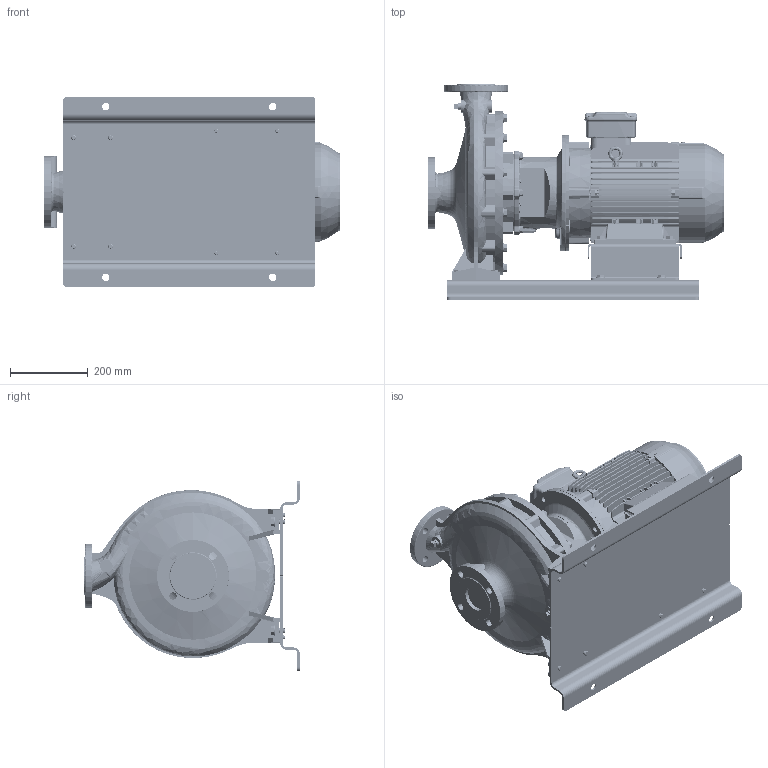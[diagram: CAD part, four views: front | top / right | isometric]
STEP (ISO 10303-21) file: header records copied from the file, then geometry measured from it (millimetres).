
FILE_DESCRIPTION (( 'STEP AP214' ), '1' );
FILE_NAME ('GSD4 50-315_7.5_(132M)_W21_BP.STEP', '2024-08-12T05:57:29', ( '' ), ( '' ), 'SwSTEP 2.0', 'SolidWorks 2019', '' );
FILE_SCHEMA (( 'AUTOMOTIVE_DESIGN' ));
Length unit declared in the file: millimetre
Products named in the file (10): GSD4 50-315_7.5_(132M)_W21_BP; Parametric bolt_SFT-A253B; Parametric Flat Washer_M10; 140_178 x 93 BP - CGSDA-5244; 132M ALIE3_W21T_B35; N5S5 GSDA-558 F1-1832921-00; 50-315-132M_______; Parametric bolt_SFT-A249B; Parametric Flat Washer_M12; Parametric bolt_SFT-A299B
Assembly tree (28 placements, depth 2):
  GSD4 50-315_7.5_(132M)_W21_BP
    50-315-132M_______
    N5S5 GSDA-558 F1-1832921-00
    140_178 x 93 BP - CGSDA-5244
    Parametric bolt_SFT-A253B  x4
    Parametric bolt_SFT-A249B  x4
    Parametric bolt_SFT-A299B  x4
    Parametric Flat Washer_M12  x4
    Parametric Flat Washer_M10  x8
    132M ALIE3_W21T_B35
Bounding box: 764.8 x 555 x 490 mm (x, y, z)
Volume: 39141769.3 mm3; surface area: 3199323.7 mm2
Topology: 38 solids, 38 shells, 5400 faces, 14048 edges, 9045 vertices
Faces by surface type: plane 3087, cylinder 1367, torus 318, bspline 302, cone 294, sphere 32
Entity records: 223372 total; most frequent: CARTESIAN_POINT 67296, ORIENTED_EDGE 25520, DIRECTION 22770, EDGE_CURVE 12760, VERTEX_POINT 8229, LINE 8194, VECTOR 8194, AXIS2_PLACEMENT_3D 7288
